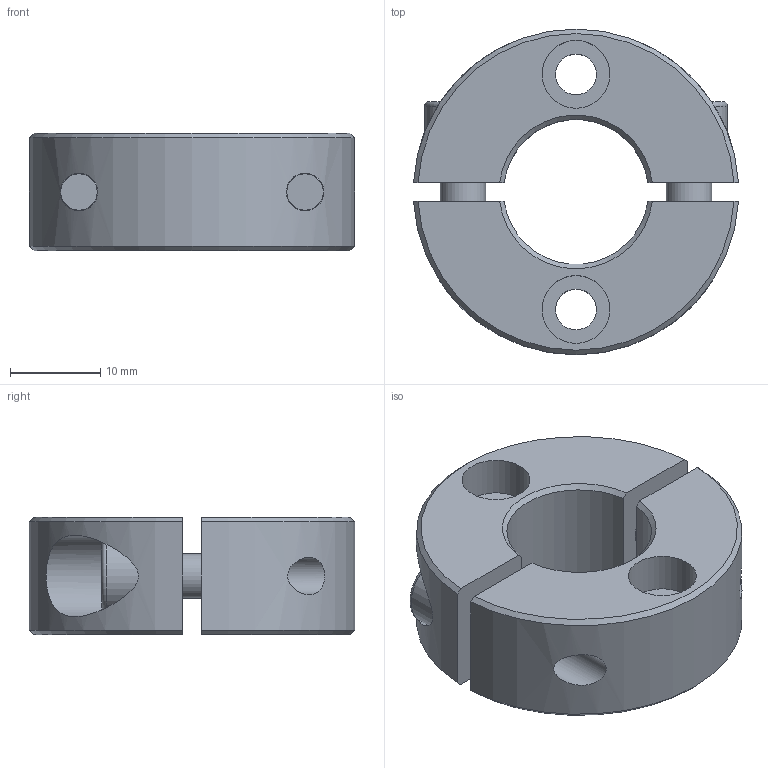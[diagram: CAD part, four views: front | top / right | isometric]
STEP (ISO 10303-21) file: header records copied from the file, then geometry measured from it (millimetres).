
FILE_DESCRIPTION( ( 'STEP AP203' ), '1' );
FILE_NAME( 'C:/Temp/Ganter_Step_05_03_2020/data/3_2/gn7072_2/Split Stainless Steel-Set collar GN 7072.2-36-B16-NI-B.stp', '2020-03-13T05:40:57', ( 'License CC BY-ND 4.0' ), ( 'CADENAS' ), ' ', 'PARTsolutions', ' ' );
FILE_SCHEMA( ( 'CONFIG_CONTROL_DESIGN' ) );
Length unit declared in the file: millimetre
Products named in the file (1): _Split Stainless Steel-Set collar GN 7072.2-36-B16-NI-B
Bounding box: 35.94 x 36 x 13 mm (x, y, z)
Volume: 8791.7 mm3; surface area: 5440.4 mm2
Topology: 1 solids, 1 shells, 62 faces, 143 edges, 97 vertices
Faces by surface type: plane 32, cylinder 18, cone 10, torus 2
Full cylindrical faces by diameter (mm): 4.134 x2, 4.5 x2, 5 x2, 5.4 x2, 7.5 x2, 8.5 x2, 9 x2
Entity records: 1913 total; most frequent: CARTESIAN_POINT 564, DIRECTION 266, ORIENTED_EDGE 232, EDGE_CURVE 116, AXIS2_PLACEMENT_3D 107, EDGE_LOOP 100, VERTEX_POINT 88, FACE_OUTER_BOUND 78
